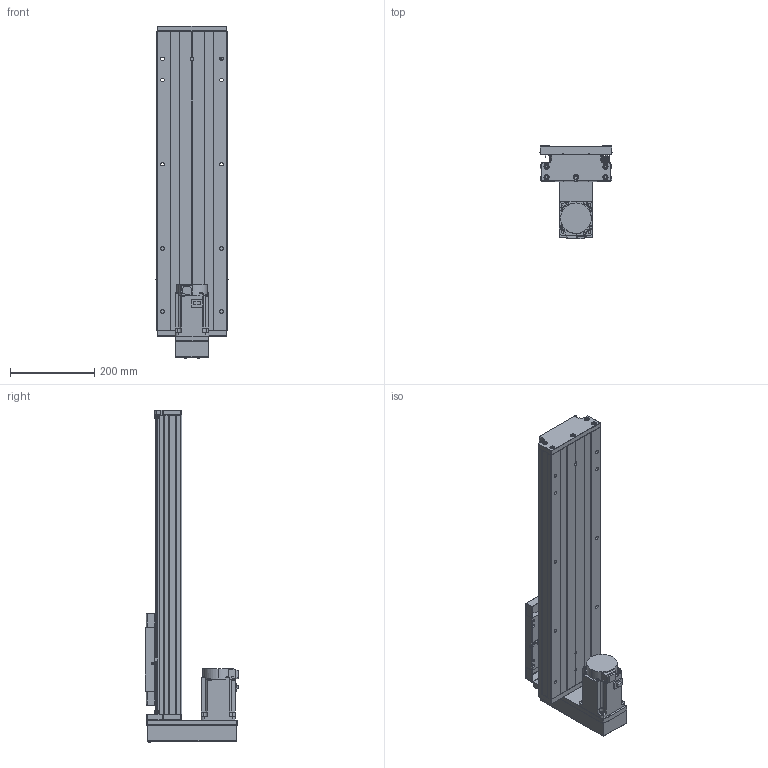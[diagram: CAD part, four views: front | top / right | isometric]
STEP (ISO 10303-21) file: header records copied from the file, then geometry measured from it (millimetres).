
FILE_DESCRIPTION (( 'STEP AP203' ), '1' );
FILE_NAME ('GTH17-450-BM-M75-C4.step', '2023-06-30T12:39:41', ( '微软用户' ), ( '微软中国' ), 'SwSTEP 2.0', 'SolidWorks 2020', '' );
FILE_SCHEMA (( 'CONFIG_CONTROL_DESIGN' ));
Length unit declared in the file: millimetre
Products named in the file (19): GTH17-005; GBT 70.2-M4¡Á45_M4¡Á35; GB1155-6X6; GTH17-015-2_CTHA86-015-2; CTHA60-017; GBT 70.1-M6¡Á20_M6¡Á20; GTH17-033; EE_SX911P_R; GTH17-031; GTH17-450-BM-M75-C4; GTH17-001_450; CTHA60-016; GBT 70.2-M3¡Á5_M3¡Á6; GTH17-002_GTH17-002; GBT 70.1-M3℅5; す晦芛蹟隊 M3℅5; GTH17-004; GBT77-2000 M3×3; HG-KN73J-S100
Assembly tree (58 placements, depth 2):
  GTH17-450-BM-M75-C4
    GTH17-001_450
    GTH17-002_GTH17-002
    GTH17-004
    GTH17-005
    GB1155-6X6  x2
    CTHA60-017  x3
    EE_SX911P_R  x3
    CTHA60-016  x2
    GBT 70.1-M3℅5  x6
    GBT77-2000 M3×3  x6
    GBT 70.1-M6¡Á20_M6¡Á20  x10
    GTH17-031
    GBT 70.2-M3¡Á5_M3¡Á6  x8
    す晦芛蹟隊 M3℅5  x6
    HG-KN73J-S100
    GBT 70.2-M4¡Á45_M4¡Á35  x4
    GTH17-015-2_CTHA86-015-2
    GTH17-033
Bounding box: 171 x 222.3 x 788.2 mm (x, y, z)
Volume: 6857359.4 mm3; surface area: 1016669.8 mm2
Topology: 61 solids, 61 shells, 2439 faces, 5821 edges, 3603 vertices
Faces by surface type: plane 1308, cylinder 658, cone 297, torus 124, sphere 32, bspline 20
Entity records: 44430 total; most frequent: CARTESIAN_POINT 10316, DIRECTION 6421, ORIENTED_EDGE 6354, EDGE_CURVE 3177, AXIS2_PLACEMENT_3D 2186, VECTOR 2049, LINE 2049, VERTEX_POINT 2015
